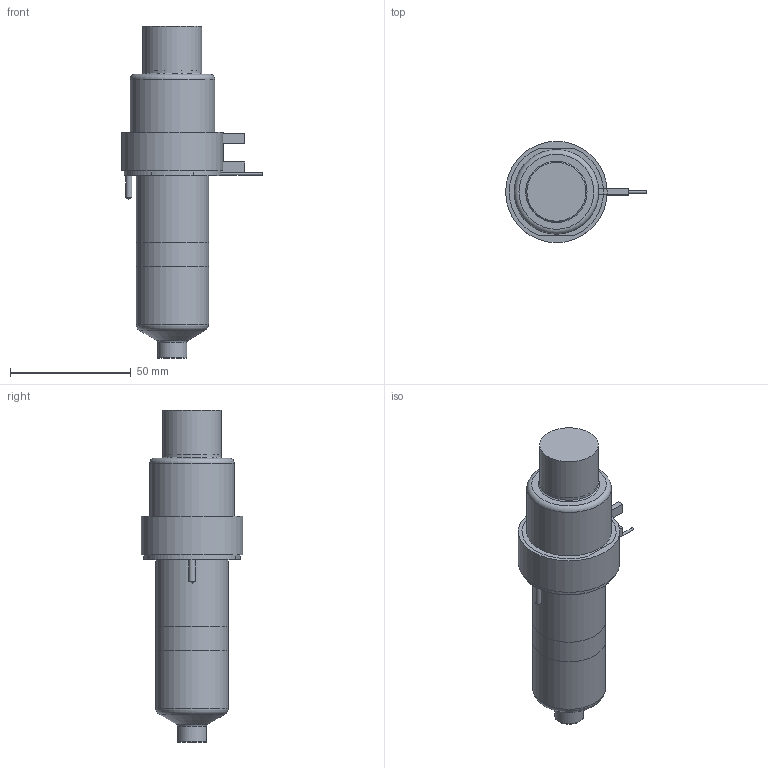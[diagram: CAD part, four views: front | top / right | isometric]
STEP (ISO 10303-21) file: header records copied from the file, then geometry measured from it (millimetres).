
FILE_DESCRIPTION(/* description */ (''),/* implementation_level */ '2;1');
FILE_NAME(/* name */ 'SXTBE-SXIBE-SXOBE16075_250C_a',/* time_stamp */ '2016-03-03T09:47:03+13:00',/* author */ (''),/* organization */ (''),/* preprocessor_version */ 'ST-DEVELOPER v9',/* originating_system */ 'UGS - NX 4.0',/* authorisation */ '');
FILE_SCHEMA (('CONFIG_CONTROL_DESIGN'));
Length unit declared in the file: millimetre
Products named in the file (1): matt0BBCfgqg
Bounding box: 58.25 x 42 x 137.45 mm (x, y, z)
Volume: 185186.5 mm3; surface area: 31909.5 mm2
Topology: 7 solids, 7 shells, 92 faces, 180 edges, 116 vertices
Faces by surface type: plane 45, cylinder 28, torus 9, cone 9, bspline 1
Full cylindrical faces by diameter (mm): 1 x4, 2.5 x2, 7 x1, 11.61 x1, 12.01 x2, 14.8 x1, 24 x1, 24.4 x1, 25.4 x1, 30 x2, 31.8 x1, 35 x1, 40 x1, 42 x1
Entity records: 2250 total; most frequent: CARTESIAN_POINT 438, DIRECTION 382, ORIENTED_EDGE 268, AXIS2_PLACEMENT_3D 166, EDGE_LOOP 142, EDGE_CURVE 134, VERTEX_POINT 107, ADVANCED_FACE 92
